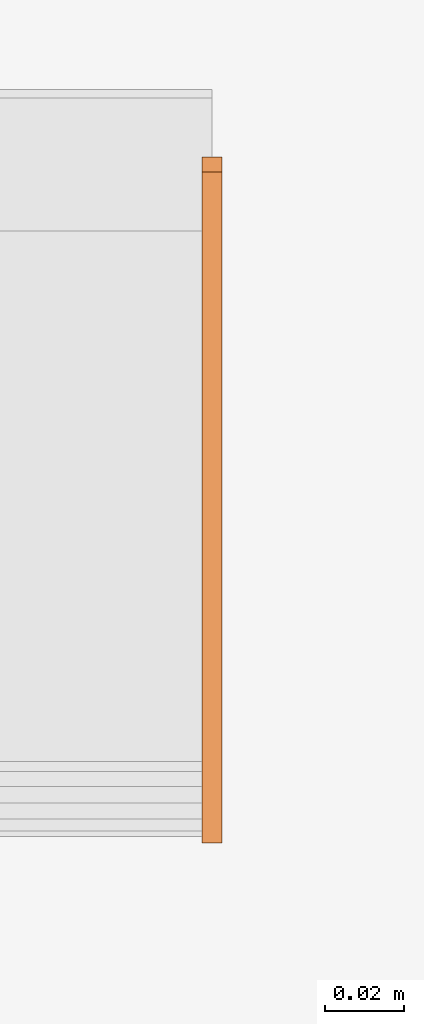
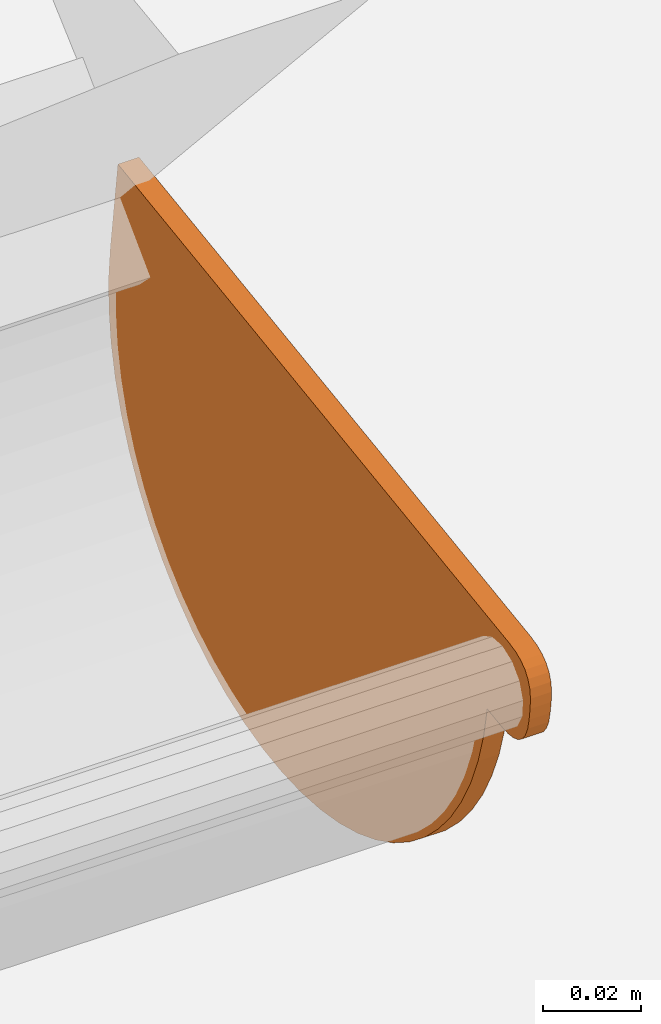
# One storey, part 29 of 43: 1 proxy.
"""IFC2X3 building model written with IfcOpenShell, lengths in millimetres."""

from ifc_helpers import new_model, si_unit, frame, origin_with_axes, place, context, project, spatial, faceted_brep, element, save


model = new_model("IFC2X3")

# Units and contexts
model_context = context("Model", 3, world=origin_with_axes())
ifc_project = project(units=[si_unit("LENGTHUNIT", "METRE", prefix="MILLI")], contexts=[model_context])

# Site, building, storey
site_placement = place(None, origin_with_axes())
site = spatial("IfcSite", under=ifc_project, at=site_placement, Name="Site", CompositionType="ELEMENT")
building_placement = place(site_placement, origin_with_axes())
building = spatial("IfcBuilding", under=site, at=building_placement, Name="?", CompositionType="ELEMENT")
storey_placement = place(building_placement, frame((0.0, 0.0, 5938.0), z_axis=(0.0, 0.0, 1.0), x_axis=(1.0, 0.0, 0.0)))
storey = spatial("IfcBuildingStorey", under=building, at=storey_placement, Name="Dachgeschoß", CompositionType="ELEMENT", Elevation=5938.0)

# Proxy
proxy_placement = place(None, origin_with_axes())
element("IfcBuildingElementProxy", 1, at=proxy_placement, inside=storey, Name="Dach03_RoofGutter#014", ObjectType="gutter", CompositionType="ELEMENT", context=model_context, shape_type="Brep", body=[
    faceted_brep([(9802.5, -7412.2509765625, 6644.93896484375), (9797.5, -7412.2509765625, 6644.93896484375), (9797.5, -7410.75647654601, 6637.18036494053), (9802.5, -7410.75647654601, 6637.18036494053), (9802.5, -7410.75634765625, 6637.18017578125), (9797.5, -7410.75634765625, 6637.18017578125), (9797.5, -7408.48454766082, 6629.61247599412), (9802.5, -7408.48454766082, 6629.61247599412), (9802.5, -7408.484375, 6629.6123046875), (9797.5, -7408.484375, 6629.6123046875), (9797.5, -7405.45867502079, 6622.31340452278), (9802.5, -7405.45867502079, 6622.31340452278), (9802.5, -7405.458984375, 6622.3134765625), (9797.5, -7405.458984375, 6622.3134765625), (9797.5, -7401.71028437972, 6615.35807661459), (9802.5, -7401.71028437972, 6615.35807661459), (9802.5, -7401.7099609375, 6615.35791015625), (9797.5, -7401.7099609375, 6615.35791015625), (9797.5, -7397.27686074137, 6608.817410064), (9802.5, -7397.27686074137, 6608.817410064), (9802.5, -7397.27734375, 6608.81787109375), (9797.5, -7397.27734375, 6608.81787109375), (9797.5, -7392.20534357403, 6602.75937116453), (9802.5, -7392.20534357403, 6602.75937116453), (9802.5, -7392.205078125, 6602.75927734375), (9797.5, -7392.205078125, 6602.75927734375), (9797.5, -7386.54617810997, 6597.24507732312), (9802.5, -7386.54617810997, 6597.24507732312), (9802.5, -7386.54638671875, 6597.2451171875), (9797.5, -7386.54638671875, 6597.2451171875), (9797.5, -7380.35858673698, 6592.33171697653), (9802.5, -7380.35858673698, 6592.33171697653), (9802.5, -7380.3583984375, 6592.33154296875), (9797.5, -7380.3583984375, 6592.33154296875), (9797.5, -7373.70539846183, 6588.06924304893), (9802.5, -7373.70539846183, 6588.06924304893), (9802.5, -7373.70556640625, 6588.0693359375), (9797.5, -7373.70556640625, 6588.0693359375), (9797.5, -7366.65536663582, 6584.50213591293), (9802.5, -7366.65536663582, 6584.50213591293), (9802.5, -7366.6552734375, 6584.501953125), (9797.5, -7366.6552734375, 6584.501953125), (9797.5, -7359.28037339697, 6581.66625324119), (9802.5, -7359.28037339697, 6581.66625324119), (9802.5, -7359.2802734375, 6581.66650390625), (9797.5, -7359.2802734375, 6581.66650390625), (9797.5, -7351.65637361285, 6579.59140394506), (9802.5, -7351.65637361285, 6579.59140394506), (9802.5, -7351.65625, 6579.59130859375), (9797.5, -7351.65625, 6579.59130859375), (9797.5, -7343.86154998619, 6578.29820858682), (9802.5, -7343.86154998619, 6578.29820858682), (9802.5, -7343.86181640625, 6578.29833984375), (9797.5, -7343.86181640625, 6578.29833984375), (9797.5, -7335.97621626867, 6577.80043982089), (9802.5, -7335.97621626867, 6577.80043982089), (9802.5, -7335.97607421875, 6577.80029296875), (9797.5, -7335.97607421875, 6577.80029296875), (9797.5, -7328.08057429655, 6578.10269295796), (9802.5, -7328.08057429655, 6578.10269295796), (9802.5, -7328.08056640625, 6578.1025390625), (9797.5, -7328.08056640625, 6578.1025390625), (9797.5, -7320.2561663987, 6579.20223903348), (9802.5, -7320.2561663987, 6579.20223903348), (9802.5, -7320.25634765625, 6579.2021484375), (9797.5, -7320.25634765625, 6579.2021484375), (9797.5, -7312.58334766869, 6581.08764841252), (9802.5, -7312.58334766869, 6581.08764841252), (9802.5, -7312.5830078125, 6581.087890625), (9797.5, -7312.5830078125, 6581.087890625), (9797.5, -7305.14020801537, 6583.74009059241), (9802.5, -7305.14020801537, 6583.74009059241), (9802.5, -7305.140625, 6583.740234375), (9797.5, -7305.140625, 6583.740234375), (9797.5, -7298.00422499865, 6587.13183440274), (9802.5, -7298.00422499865, 6587.13183440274), (9802.5, -7298.00390625, 6587.1318359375), (9797.5, -7298.00390625, 6587.1318359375), (9797.5, -7291.24730613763, 6591.22793584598), (9802.5, -7291.24730613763, 6591.22793584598), (9802.5, -7291.24755859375, 6591.2275390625), (9797.5, -7291.24755859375, 6591.2275390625), (9797.5, -7284.94005870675, 6595.98613897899), (9802.5, -7284.94005870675, 6595.98613897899), (9802.5, -7284.93994140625, 6595.986328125), (9797.5, -7284.93994140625, 6595.986328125), (9797.5, -7279.14614135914, 6601.35872833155), (9802.5, -7279.14614135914, 6601.35872833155), (9802.5, -7279.14599609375, 6601.35888671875), (9797.5, -7279.14599609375, 6601.35888671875), (9797.5, -7273.92549597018, 6607.28988671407), (9802.5, -7273.92549597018, 6607.28988671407), (9802.5, -7273.92578125, 6607.28955078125), (9797.5, -7273.92578125, 6607.28955078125), (9797.5, -7269.3319813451, 6613.71815090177), (9802.5, -7269.3319813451, 6613.71815090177), (9802.5, -7269.33203125, 6613.71826171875), (9797.5, -7269.33203125, 6613.71826171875), (9797.5, -7265.41233128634, 6620.57876151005), (9802.5, -7265.41233128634, 6620.57876151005), (9802.5, -7265.412109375, 6620.57861328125), (9797.5, -7265.412109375, 6620.57861328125), (9797.5, -7262.20650946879, 6627.80031313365), (9802.5, -7262.20650946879, 6627.80031313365), (9802.5, -7262.20654296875, 6627.80078125), (9797.5, -7262.20654296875, 6627.80078125), (9797.5, -7259.74794288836, 6635.30988116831), (9802.5, -7259.74794288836, 6635.30988116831), (9802.5, -7259.748046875, 6635.3095703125), (9797.5, -7259.748046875, 6635.3095703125), (9797.5, -7258.06184691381, 6643.02877046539), (9802.5, -7258.06184691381, 6643.02877046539), (9802.5, -7258.0615234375, 6643.02880859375), (9797.5, -7258.0615234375, 6643.02880859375), (9797.5, -7257.16482343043, 6650.87910882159), (9802.5, -7257.16482343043, 6650.87910882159), (9802.5, -7257.1650390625, 6650.87890625), (9797.5, -7257.1650390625, 6650.87890625), (9797.5, -7257.06723906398, 6658.77950638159), (9802.5, -7257.06723906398, 6658.77950638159), (9802.5, -7257.0673828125, 6658.77978515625), (9797.5, -7257.0673828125, 6658.77978515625), (9797.5, -7257.76928279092, 6666.64988526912), (9802.5, -7257.76928279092, 6666.64988526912), (9802.5, -7257.76904296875, 6666.64990234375), (9797.5, -7257.76904296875, 6666.64990234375), (9797.5, -7335.00994139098, 6655.79430188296), (9802.5, -7335.00994139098, 6655.79430188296), (9802.5, -7335.009765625, 6655.79443359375), (9797.5, -7335.009765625, 6655.79443359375), (9797.5, -7412.25066421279, 6644.93893386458), (9802.5, -7412.25066421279, 6644.93893386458), (9797.5, -7258.0615234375, 6643.02880859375), (9797.5, -7335.0098234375, 6655.79420859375), (9797.5, -7257.7689234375, 6666.64980859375), (9797.5, -7257.0670234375, 6658.77970859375), (9797.5, -7258.0615234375, 6643.02880859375), (9797.5, -7257.0670234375, 6658.77970859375), (9797.5, -7257.1648234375, 6650.87910859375), (9797.5, -7269.33203125, 6613.71826171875), (9797.5, -7258.06193125, 6643.02876171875), (9797.5, -7259.74813125, 6635.30956171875), (9797.5, -7262.20673125, 6627.80046171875), (9797.5, -7269.33203125, 6613.71826171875), (9797.5, -7262.20673125, 6627.80046171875), (9797.5, -7265.41233125, 6620.57876171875), (9797.5, -7320.25634765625, 6579.2021484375), (9797.5, -7335.01014765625, 6655.7940484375), (9797.5, -7258.06184765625, 6643.0286484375), (9797.5, -7269.33194765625, 6613.7181484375), (9797.5, -7291.24755859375, 6591.2275390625), (9797.5, -7269.33195859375, 6613.7181390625), (9797.5, -7273.92575859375, 6607.2895390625), (9797.5, -7279.14625859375, 6601.3585390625), (9797.5, -7291.24755859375, 6591.2275390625), (9797.5, -7279.14625859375, 6601.3585390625), (9797.5, -7284.94005859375, 6595.9861390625), (9797.5, -7320.25634765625, 6579.2021484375), (9797.5, -7291.24754765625, 6591.2275484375), (9797.5, -7298.00414765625, 6587.1314484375), (9797.5, -7305.14054765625, 6583.7398484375), (9797.5, -7320.25634765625, 6579.2021484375), (9797.5, -7305.14054765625, 6583.7398484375), (9797.5, -7312.58334765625, 6581.0876484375), (9797.5, -7320.25634765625, 6579.2021484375), (9797.5, -7269.33194765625, 6613.7181484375), (9797.5, -7291.24754765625, 6591.2275484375), (9797.5, -7351.65625, 6579.59130859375), (9797.5, -7320.25605, 6579.20240859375), (9797.5, -7328.08045, 6578.10270859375), (9797.5, -7335.97595, 6577.80030859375), (9797.5, -7351.65625, 6579.59130859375), (9797.5, -7335.97595, 6577.80030859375), (9797.5, -7343.86155, 6578.29820859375), (9797.5, -7380.3583984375, 6592.33154296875), (9797.5, -7351.6563984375, 6579.59124296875), (9797.5, -7359.2802984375, 6581.66634296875), (9797.5, -7366.6551984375, 6584.50204296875), (9797.5, -7380.3583984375, 6592.33154296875), (9797.5, -7366.6551984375, 6584.50204296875), (9797.5, -7373.7053984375, 6588.06924296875), (9797.5, -7335.009765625, 6655.79443359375), (9797.5, -7320.255965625, 6579.20253359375), (9797.5, -7351.656165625, 6579.59143359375), (9797.5, -7380.358165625, 6592.33173359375), (9797.5, -7401.7099609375, 6615.35791015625), (9797.5, -7380.3581609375, 6592.33131015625), (9797.5, -7386.5459609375, 6597.24471015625), (9797.5, -7392.2048609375, 6602.75891015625), (9797.5, -7401.7099609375, 6615.35791015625), (9797.5, -7392.2048609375, 6602.75891015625), (9797.5, -7397.2768609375, 6608.81741015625), (9797.5, -7408.484375, 6629.6123046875), (9797.5, -7335.009775, 6655.7941046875), (9797.5, -7380.358175, 6592.3314046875), (9797.5, -7401.709975, 6615.3580046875), (9797.5, -7408.484375, 6629.6123046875), (9797.5, -7401.709975, 6615.3580046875), (9797.5, -7405.458675, 6622.3134046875), (9797.5, -7412.2509765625, 6644.93896484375), (9797.5, -7335.0100765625, 6655.79446484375), (9797.5, -7408.4846765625, 6629.61266484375), (9797.5, -7410.7564765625, 6637.18036484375), (9802.5, -7397.27734375, 6608.81787109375), (9802.5, -7410.75664375, 6637.18037109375), (9802.5, -7408.48484375, 6629.61267109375), (9802.5, -7405.45914375, 6622.31377109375), (9802.5, -7397.27734375, 6608.81787109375), (9802.5, -7405.45914375, 6622.31377109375), (9802.5, -7401.71044375, 6615.35837109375), (9802.5, -7373.70556640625, 6588.0693359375), (9802.5, -7397.27726640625, 6608.8177359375), (9802.5, -7392.20526640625, 6602.7592359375), (9802.5, -7386.54636640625, 6597.2450359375), (9802.5, -7373.70556640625, 6588.0693359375), (9802.5, -7386.54636640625, 6597.2450359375), (9802.5, -7380.35856640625, 6592.3316359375), (9802.5, -7312.5830078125, 6581.087890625), (9802.5, -7410.7562078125, 6637.180190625), (9802.5, -7397.2769078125, 6608.817690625), (9802.5, -7373.7052078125, 6588.069290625), (9802.5, -7343.86181640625, 6578.29833984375), (9802.5, -7373.70551640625, 6588.06943984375), (9802.5, -7366.65531640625, 6584.50223984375), (9802.5, -7359.28041640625, 6581.66653984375), (9802.5, -7343.86181640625, 6578.29833984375), (9802.5, -7359.28041640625, 6581.66653984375), (9802.5, -7351.65651640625, 6579.59143984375), (9802.5, -7312.5830078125, 6581.087890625), (9802.5, -7343.8615078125, 6578.298190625), (9802.5, -7335.9759078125, 6577.800290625), (9802.5, -7328.0804078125, 6578.102690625), (9802.5, -7312.5830078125, 6581.087890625), (9802.5, -7328.0804078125, 6578.102690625), (9802.5, -7320.2560078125, 6579.202390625), (9802.5, -7312.5830078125, 6581.087890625), (9802.5, -7373.7052078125, 6588.069290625), (9802.5, -7343.8615078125, 6578.298190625), (9802.5, -7284.93994140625, 6595.986328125), (9802.5, -7312.58324140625, 6581.087828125), (9802.5, -7305.14044140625, 6583.740028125), (9802.5, -7298.00404140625, 6587.131628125), (9802.5, -7284.93994140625, 6595.986328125), (9802.5, -7298.00404140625, 6587.131628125), (9802.5, -7291.24744140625, 6591.227728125), (9802.5, -7265.412109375, 6620.57861328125), (9802.5, -7284.939909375, 6595.98611328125), (9802.5, -7279.146109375, 6601.35851328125), (9802.5, -7273.925609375, 6607.28951328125), (9802.5, -7265.412109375, 6620.57861328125), (9802.5, -7273.925609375, 6607.28951328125), (9802.5, -7269.331809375, 6613.71811328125), (9802.5, -7410.75634765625, 6637.18017578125), (9802.5, -7312.58314765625, 6581.08787578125), (9802.5, -7284.93984765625, 6595.98637578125), (9802.5, -7265.41204765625, 6620.57887578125), (9802.5, -7257.1650390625, 6650.87890625), (9802.5, -7265.4121390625, 6620.57860625), (9802.5, -7262.2065390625, 6627.80030625), (9802.5, -7259.7479390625, 6635.30940625), (9802.5, -7257.1650390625, 6650.87890625), (9802.5, -7259.7479390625, 6635.30940625), (9802.5, -7258.0617390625, 6643.02860625), (9802.5, -7257.76904296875, 6666.64990234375), (9802.5, -7410.75634296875, 6637.18020234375), (9802.5, -7265.41204296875, 6620.57890234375), (9802.5, -7257.16494296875, 6650.87920234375), (9802.5, -7257.76904296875, 6666.64990234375), (9802.5, -7257.16494296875, 6650.87920234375), (9802.5, -7257.06714296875, 6658.77980234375), (9802.5, -7412.2509765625, 6644.93896484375), (9802.5, -7410.7564765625, 6637.18036484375), (9802.5, -7257.7691765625, 6666.65006484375), (9802.5, -7335.0100765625, 6655.79446484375), (9797.5, -7257.76904296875, 6666.64990234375), (9802.5, -7257.76904296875, 6666.64990234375), (9802.5, -7418.09054740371, 6644.10700284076), (9797.5, -7418.09054740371, 6644.10700284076), (9802.5, -7421.29150390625, 6666.88330078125), (9802.5, -7260.86710379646, 6689.4295002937), (9797.5, -7260.86710379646, 6689.4295002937), (9797.5, -7421.29150390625, 6666.88330078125), (9802.5, -7260.8671875, 6689.42919921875), (9802.5, -7257.76908754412, 6666.64969977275), (9797.5, -7257.76908754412, 6666.64969977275), (9797.5, -7260.8671875, 6689.42919921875), (9797.5, -7423.05419921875, 6644.23388671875), (9797.5, -7257.76929921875, 6666.65008671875), (9797.5, -7418.09079921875, 6644.10718671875), (9797.5, -7420.74619921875, 6643.94008671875), (9797.5, -7426.6279296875, 6646.2041015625), (9797.5, -7257.7690296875, 6666.6498015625), (9797.5, -7423.0539296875, 6644.2336015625), (9797.5, -7425.0146296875, 6644.9884015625), (9797.5, -7428.8125, 6650.0185546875), (9797.5, -7257.769, 6666.6499546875), (9797.5, -7426.6279, 6646.2042546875), (9797.5, -7427.8939, 6647.8809546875), (9797.5, -7421.29150390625, 6666.88330078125), (9797.5, -7257.76900390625, 6666.65000078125), (9797.5, -7428.81250390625, 6650.01860078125), (9797.5, -7429.38380390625, 6652.61720078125), (9797.5, -7429.6748046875, 6660.55322265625), (9797.5, -7429.3837046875, 6652.61702265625), (9797.5, -7429.8015046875, 6655.58982265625), (9797.5, -7429.9686046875, 6658.24522265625), (9797.5, -7427.70458984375, 6664.12744140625), (9797.5, -7429.38398984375, 6652.61724140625), (9797.5, -7429.67508984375, 6660.55344140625), (9797.5, -7428.92028984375, 6662.51414140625), (9797.5, -7423.89013671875, 6666.31201171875), (9797.5, -7429.38383671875, 6652.61721171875), (9797.5, -7427.70443671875, 6664.12741171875), (9797.5, -7426.02773671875, 6665.39341171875), (9797.5, -7421.29150390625, 6666.88330078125), (9797.5, -7429.38380390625, 6652.61720078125), (9797.5, -7423.89010390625, 6666.31200078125), (9797.5, -7260.8671875, 6689.42919921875), (9797.5, -7257.7690875, 6666.64969921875), (9797.5, -7421.2915875, 6666.88299921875), (9797.5, -7429.8017578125, 6655.58984375), (9797.5, -7429.38395782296, 6652.61704377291), (9802.5, -7429.38395782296, 6652.61704377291), (9802.5, -7429.8017578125, 6655.58984375), (9802.5, -7429.8017578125, 6655.58984375), (9802.5, -7418.0906578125, 6644.10694375), (9802.5, -7257.7691578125, 6666.64984375), (9802.5, -7260.8672578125, 6689.42934375), (9802.5, -7426.02783203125, 6665.39306640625), (9802.5, -7260.86723203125, 6689.42916640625), (9802.5, -7421.29163203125, 6666.88296640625), (9802.5, -7423.89023203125, 6666.31166640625), (9802.5, -7428.92041015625, 6662.51416015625), (9802.5, -7260.86741015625, 6689.42956015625), (9802.5, -7426.02801015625, 6665.39346015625), (9802.5, -7427.70471015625, 6664.12746015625), (9802.5, -7429.96875, 6658.2451171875), (9802.5, -7260.86715, 6689.4292171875), (9802.5, -7428.92015, 6662.5138171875), (9802.5, -7429.67495, 6660.5531171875), (9802.5, -7429.8017578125, 6655.58984375), (9802.5, -7260.8672578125, 6689.42934375), (9802.5, -7429.9688578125, 6658.24524375), (9802.5, -7423.05419921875, 6644.23388671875), (9802.5, -7420.74619921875, 6643.94008671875), (9802.5, -7418.09079921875, 6644.10718671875), (9802.5, -7429.80189921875, 6655.59008671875), (9802.5, -7426.6279296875, 6646.2041015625), (9802.5, -7425.0146296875, 6644.9884015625), (9802.5, -7423.0539296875, 6644.2336015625), (9802.5, -7429.8016296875, 6655.5898015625), (9802.5, -7428.8125, 6650.0185546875), (9802.5, -7427.8939, 6647.8809546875), (9802.5, -7426.6279, 6646.2042546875), (9802.5, -7429.8016, 6655.5899546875), (9802.5, -7429.8017578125, 6655.58984375), (9802.5, -7429.3839578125, 6652.61704375), (9802.5, -7428.8126578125, 6650.01844375), (9802.5, -7420.74609375, 6643.93994140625), (9797.5, -7420.74609375, 6643.93994140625), (9797.5, -7418.09069368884, 6644.10704139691), (9802.5, -7418.09069368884, 6644.10704139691), (9797.5, -7423.89013671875, 6666.31201171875), (9802.5, -7423.89013671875, 6666.31201171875), (9802.5, -7421.291536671, 6666.88331171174), (9797.5, -7421.291536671, 6666.88331171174), (9802.5, -7423.05419921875, 6644.23388671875), (9797.5, -7423.05419921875, 6644.23388671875), (9797.5, -7420.74619921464, 6643.9400867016), (9802.5, -7420.74619921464, 6643.9400867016), (9802.5, -7425.0146484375, 6644.98828125), (9797.5, -7425.0146484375, 6644.98828125), (9797.5, -7423.05394848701, 6644.23348128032), (9802.5, -7423.05394848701, 6644.23348128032), (9802.5, -7426.6279296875, 6646.2041015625), (9797.5, -7426.6279296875, 6646.2041015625), (9797.5, -7425.01462973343, 6644.98840159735), (9802.5, -7425.01462973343, 6644.98840159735), (9802.5, -7427.89404296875, 6647.880859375), (9797.5, -7427.89404296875, 6647.880859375), (9797.5, -7426.62804300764, 6646.20415938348), (9802.5, -7426.62804300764, 6646.20415938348), (9802.5, -7428.8125, 6650.0185546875), (9797.5, -7428.8125, 6650.0185546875), (9797.5, -7427.89390000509, 6647.88095474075), (9802.5, -7427.89390000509, 6647.88095474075), (9802.5, -7429.3837890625, 6652.6171875), (9797.5, -7429.3837890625, 6652.6171875), (9797.5, -7428.81248906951, 6650.01858745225), (9802.5, -7428.81248906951, 6650.01858745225), (9797.5, -7426.02783203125, 6665.39306640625), (9802.5, -7426.02783203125, 6665.39306640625), (9802.5, -7423.8902320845, 6666.31166640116), (9797.5, -7423.8902320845, 6666.31166640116), (9797.5, -7427.70458984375, 6664.12744140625), (9802.5, -7427.70458984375, 6664.12744140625), (9802.5, -7426.02788985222, 6665.39344136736), (9797.5, -7426.02788985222, 6665.39344136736), (9797.5, -7428.92041015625, 6662.51416015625), (9802.5, -7428.92041015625, 6662.51416015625), (9802.5, -7427.7047101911, 6664.12746011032), (9797.5, -7427.7047101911, 6664.12746011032), (9797.5, -7429.6748046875, 6660.55322265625), (9802.5, -7429.6748046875, 6660.55322265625), (9802.5, -7428.92000471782, 6662.51392260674), (9797.5, -7428.92000471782, 6662.51392260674), (9797.5, -7429.96875, 6658.2451171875), (9802.5, -7429.96875, 6658.2451171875), (9802.5, -7429.67494998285, 6660.55311719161), (9797.5, -7429.67494998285, 6660.55311719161), (9797.5, -7429.8017578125, 6655.58984375), (9802.5, -7429.8017578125, 6655.58984375), (9802.5, -7429.96885780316, 6658.24524381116), (9797.5, -7429.96885780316, 6658.24524381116)], [[[0, 1, 2, 3]], [[4, 5, 6, 7]], [[8, 9, 10, 11]], [[12, 13, 14, 15]], [[16, 17, 18, 19]], [[20, 21, 22, 23]], [[24, 25, 26, 27]], [[28, 29, 30, 31]], [[32, 33, 34, 35]], [[36, 37, 38, 39]], [[40, 41, 42, 43]], [[44, 45, 46, 47]], [[48, 49, 50, 51]], [[52, 53, 54, 55]], [[56, 57, 58, 59]], [[60, 61, 62, 63]], [[64, 65, 66, 67]], [[68, 69, 70, 71]], [[72, 73, 74, 75]], [[76, 77, 78, 79]], [[80, 81, 82, 83]], [[84, 85, 86, 87]], [[88, 89, 90, 91]], [[92, 93, 94, 95]], [[96, 97, 98, 99]], [[100, 101, 102, 103]], [[104, 105, 106, 107]], [[108, 109, 110, 111]], [[112, 113, 114, 115]], [[116, 117, 118, 119]], [[120, 121, 122, 123]], [[124, 125, 126, 127]], [[128, 129, 130, 131]], [[132, 133, 134, 135]], [[136, 137, 138]], [[139, 140, 141, 142]], [[143, 144, 145]], [[146, 147, 148, 149]], [[150, 151, 152, 153]], [[154, 155, 156]], [[157, 158, 159, 160]], [[161, 162, 163]], [[164, 165, 166]], [[167, 168, 169, 170]], [[171, 172, 173]], [[174, 175, 176, 177]], [[178, 179, 180]], [[181, 182, 183, 184]], [[185, 186, 187, 188]], [[189, 190, 191]], [[192, 193, 194, 195]], [[196, 197, 198]], [[199, 200, 201, 202]], [[203, 204, 205, 206]], [[207, 208, 209]], [[210, 211, 212, 213]], [[214, 215, 216]], [[217, 218, 219, 220]], [[221, 222, 223, 224]], [[225, 226, 227]], [[228, 229, 230, 231]], [[232, 233, 234]], [[235, 236, 237]], [[238, 239, 240, 241]], [[242, 243, 244]], [[245, 246, 247, 248]], [[249, 250, 251]], [[252, 253, 254, 255]], [[256, 257, 258, 259]], [[260, 261, 262]], [[263, 264, 265, 266]], [[267, 268, 269]], [[270, 271, 272, 273]], [[274, 275, 276, 277]], [[278, 279, 280, 281]], [[282, 283, 284, 285]], [[286, 287, 288, 289]], [[290, 291, 292, 293]], [[294, 295, 296, 297]], [[298, 299, 300, 301]], [[302, 303, 304, 305]], [[306, 307, 308, 309]], [[310, 311, 312, 313]], [[314, 315, 316]], [[317, 318, 319]], [[320, 321, 322, 323]], [[324, 325, 326, 327]], [[328, 329, 330, 331]], [[332, 333, 334, 335]], [[336, 337, 338, 339]], [[340, 341, 342]], [[343, 344, 345, 346]], [[347, 348, 349, 350]], [[351, 352, 353, 354]], [[355, 356, 357]], [[358, 359, 360, 361]], [[362, 363, 364, 365]], [[366, 367, 368, 369]], [[370, 371, 372, 373]], [[374, 375, 376, 377]], [[378, 379, 380, 381]], [[382, 383, 384, 385]], [[386, 387, 388, 389]], [[390, 391, 392, 393]], [[394, 395, 396, 397]], [[398, 399, 400, 401]], [[402, 403, 404, 405]], [[406, 407, 408, 409]], [[410, 411, 412, 413]]]),
])

save(model, "model.ifc")
